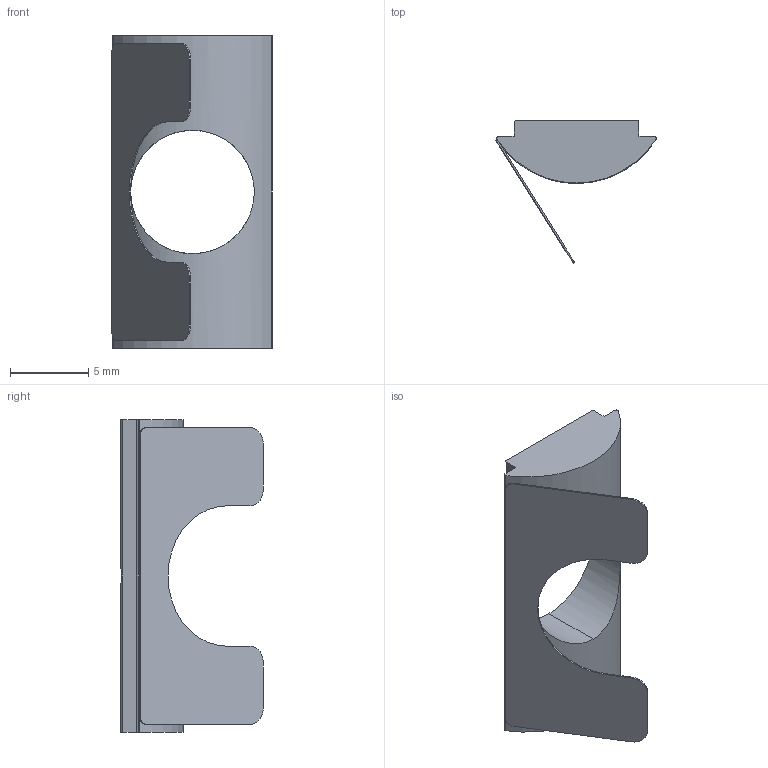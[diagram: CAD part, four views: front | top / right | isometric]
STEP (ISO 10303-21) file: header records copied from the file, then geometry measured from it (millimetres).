
FILE_DESCRIPTION (( 'STEP AP203' ), '1' );
FILE_NAME ('230YS08.STEP', '2018-07-03T12:43:38', ( '' ), ( '' ), 'SwSTEP 2.0', 'SolidWorks 2014', '' );
FILE_SCHEMA (( 'CONFIG_CONTROL_DESIGN' ));
Length unit declared in the file: millimetre
Products named in the file (3): 230YS08; SOMUN YAYI-30; 230YS08 GÖVDE
Assembly tree (2 placements, depth 2):
  230YS08
    230YS08 GÖVDE
    SOMUN YAYI-30
Bounding box: 10.27 x 9.11 x 20 mm (x, y, z)
Volume: 434.3 mm3; surface area: 776.1 mm2
Topology: 2 solids, 2 shells, 32 faces, 87 edges, 58 vertices
Faces by surface type: plane 17, cylinder 15
Entity records: 1406 total; most frequent: CARTESIAN_POINT 266, DIRECTION 187, ORIENTED_EDGE 174, EDGE_CURVE 87, AXIS2_PLACEMENT_3D 67, VERTEX_POINT 58, LINE 53, VECTOR 53
